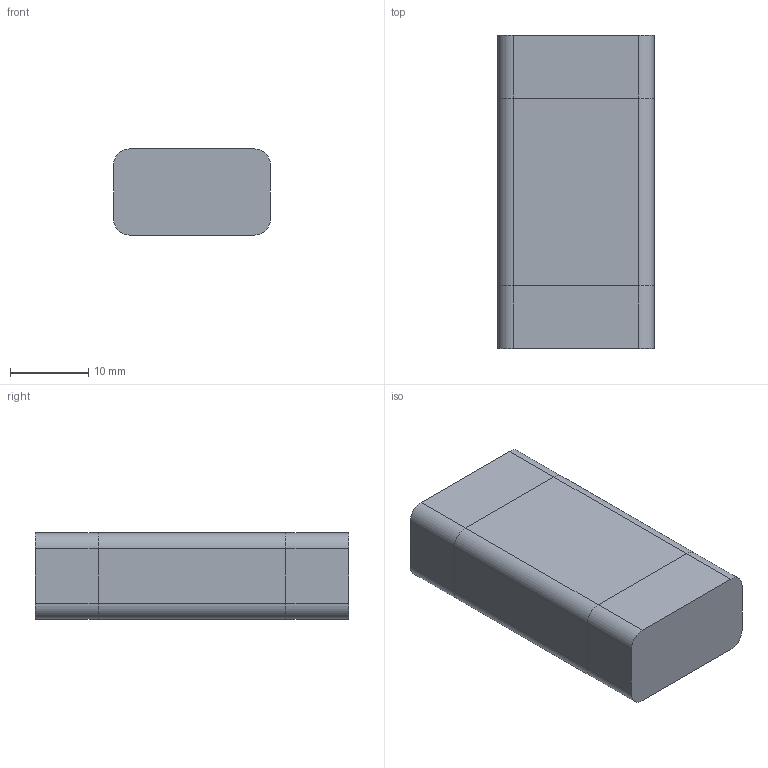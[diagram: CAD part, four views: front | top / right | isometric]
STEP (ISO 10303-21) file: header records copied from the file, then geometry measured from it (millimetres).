
FILE_DESCRIPTION(('FreeCAD Model'),'2;1');
FILE_NAME('Open CASCADE Shape Model','2023-05-06T18:44:57',('Author'),( ''),'Open CASCADE STEP processor 7.5','FreeCAD','Unknown');
FILE_SCHEMA(('AUTOMOTIVE_DESIGN { 1 0 10303 214 1 1 1 1 }'));
Length unit declared in the file: millimetre
Products named in the file (1): ACB_112040 3.7V 950mAh
Bounding box: 20 x 40 x 11 mm (x, y, z)
Volume: 8662.7 mm3; surface area: 2775.8 mm2
Topology: 1 solids, 1 shells, 26 faces, 56 edges, 32 vertices
Faces by surface type: plane 14, cylinder 12
Entity records: 909 total; most frequent: DIRECTION 126, CARTESIAN_POINT 115, ORIENTED_EDGE 112, EDGE_CURVE 56, AXIS2_PLACEMENT_3D 43, LINE 40, VECTOR 40, VERTEX_POINT 32
